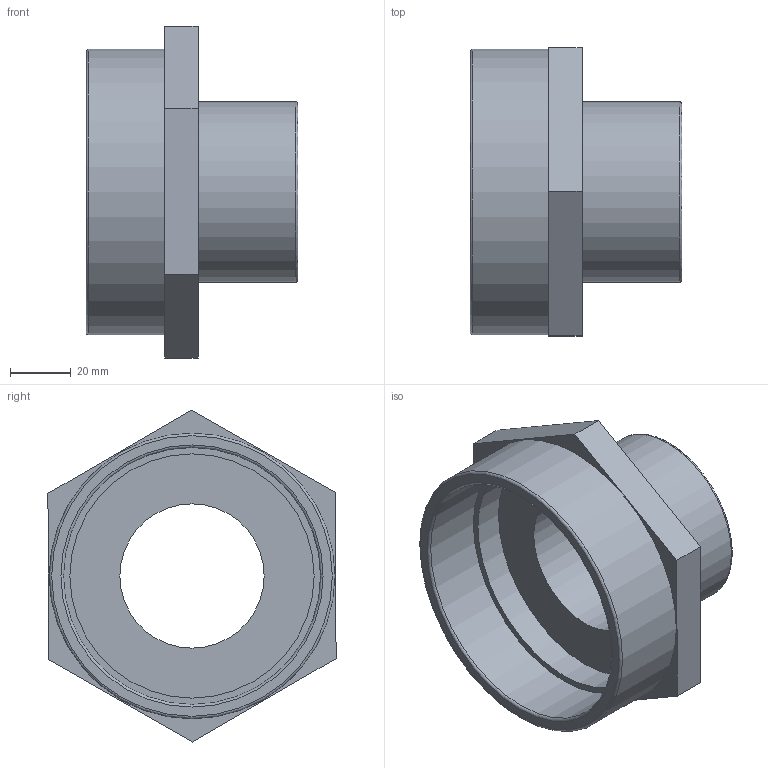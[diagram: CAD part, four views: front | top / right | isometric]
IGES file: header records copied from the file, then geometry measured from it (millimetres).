
Global section: file name: 052201020030.ipt; native system: Autodesk Inventor 2015; preprocessor: unknown; author: KIM; date: 20171207.165425; units: millimetre
Bounding box: 70 x 95.2 x 109.7 mm (x, y, z)
Volume: 122256.8 mm3; surface area: 43157.4 mm2
Topology: 1 solids, 1 shells, 21 faces, 55 edges, 40 vertices
Faces by surface type: plane 12, revolution 7, cylinder 2
Full cylindrical faces by diameter (mm): 59.614 x1, 94.395 x1
